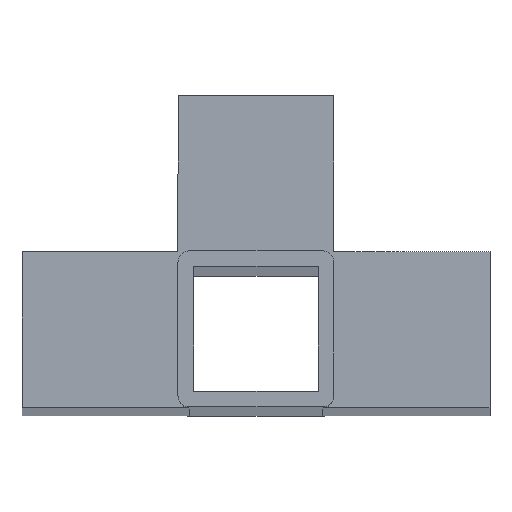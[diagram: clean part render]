
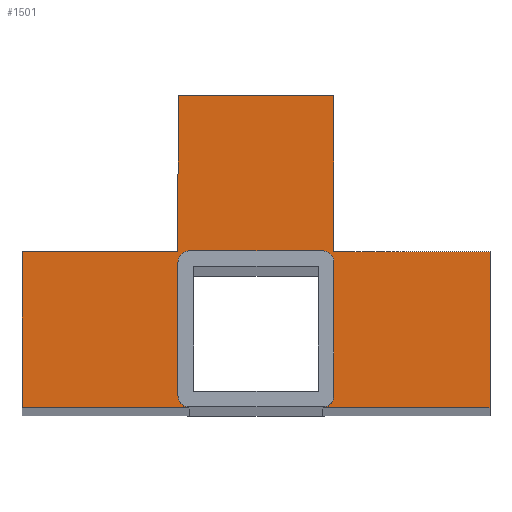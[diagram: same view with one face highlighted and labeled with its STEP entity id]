
A CAD part, top view. The second image highlights one B-rep face of the part: STEP entity #1501.
In plain terms, the highlighted planar face has unit normal (0, 0, 1).
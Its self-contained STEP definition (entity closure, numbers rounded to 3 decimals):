
#38 = DIRECTION ( 'NONE',  ( 0., 0., -1. ) ) ;
#41 = EDGE_CURVE ( 'NONE', #569, #1343, #944, .T. ) ;
#59 = VECTOR ( 'NONE', #917, 1000. ) ;
#63 = VERTEX_POINT ( 'NONE', #1124 ) ;
#64 = CARTESIAN_POINT ( 'NONE',  ( 20., 60., 600. ) ) ;
#82 = VERTEX_POINT ( 'NONE', #1514 ) ;
#88 = VECTOR ( 'NONE', #832, 1000. ) ;
#96 = CARTESIAN_POINT ( 'NONE',  ( 0., 60., 600. ) ) ;
#99 = VERTEX_POINT ( 'NONE', #1136 ) ;
#110 = CARTESIAN_POINT ( 'NONE',  ( -17., -20., 600. ) ) ;
#111 = LINE ( 'NONE', #965, #88 ) ;
#119 = VERTEX_POINT ( 'NONE', #1505 ) ;
#149 = VERTEX_POINT ( 'NONE', #743 ) ;
#169 = CARTESIAN_POINT ( 'NONE',  ( 17., 17., 600. ) ) ;
#199 = ORIENTED_EDGE ( 'NONE', *, *, #1150, .T. ) ;
#210 = EDGE_CURVE ( 'NONE', #947, #736, #1065, .T. ) ;
#221 = VERTEX_POINT ( 'NONE', #780 ) ;
#231 = EDGE_CURVE ( 'NONE', #736, #1009, #941, .T. ) ;
#257 = ORIENTED_EDGE ( 'NONE', *, *, #284, .F. ) ;
#262 = ORIENTED_EDGE ( 'NONE', *, *, #41, .F. ) ;
#272 = CARTESIAN_POINT ( 'NONE',  ( 0., -20., 600. ) ) ;
#284 = EDGE_CURVE ( 'NONE', #99, #650, #1524, .T. ) ;
#286 = DIRECTION ( 'NONE',  ( 0., -1., 0. ) ) ;
#289 = CARTESIAN_POINT ( 'NONE',  ( -60., -20., 600. ) ) ;
#292 = DIRECTION ( 'NONE',  ( 0., -1., 0. ) ) ;
#327 = VECTOR ( 'NONE', #1016, 1000. ) ;
#334 = CARTESIAN_POINT ( 'NONE',  ( -20., 60., 600. ) ) ;
#335 = AXIS2_PLACEMENT_3D ( 'NONE', #519, #1291, #1028 ) ;
#349 = ORIENTED_EDGE ( 'NONE', *, *, #971, .F. ) ;
#368 = ORIENTED_EDGE ( 'NONE', *, *, #1518, .T. ) ;
#372 = EDGE_CURVE ( 'NONE', #650, #82, #1442, .T. ) ;
#373 = DIRECTION ( 'NONE',  ( 1., 0., 0. ) ) ;
#379 = DIRECTION ( 'NONE',  ( 1., 0., 0. ) ) ;
#385 = EDGE_CURVE ( 'NONE', #1203, #99, #900, .T. ) ;
#389 = AXIS2_PLACEMENT_3D ( 'NONE', #1498, #867, #749 ) ;
#394 = ORIENTED_EDGE ( 'NONE', *, *, #1242, .F. ) ;
#396 = DIRECTION ( 'NONE',  ( 1., 0., 0. ) ) ;
#493 = VECTOR ( 'NONE', #1334, 1000. ) ;
#519 = CARTESIAN_POINT ( 'NONE',  ( -17., -17., 600. ) ) ;
#524 = DIRECTION ( 'NONE',  ( 1., 0., 0. ) ) ;
#532 = ORIENTED_EDGE ( 'NONE', *, *, #1137, .F. ) ;
#545 = EDGE_CURVE ( 'NONE', #1343, #63, #111, .T. ) ;
#563 = EDGE_CURVE ( 'NONE', #63, #1203, #1248, .T. ) ;
#569 = VERTEX_POINT ( 'NONE', #334 ) ;
#571 = CARTESIAN_POINT ( 'NONE',  ( 17., -20., 600. ) ) ;
#581 = VERTEX_POINT ( 'NONE', #1329 ) ;
#582 = LINE ( 'NONE', #1146, #670 ) ;
#594 = VECTOR ( 'NONE', #286, 1000. ) ;
#625 = FACE_OUTER_BOUND ( 'NONE', #883, .T. ) ;
#626 = EDGE_CURVE ( 'NONE', #1009, #1576, #1062, .T. ) ;
#643 = DIRECTION ( 'NONE',  ( 1., 0., 0. ) ) ;
#645 = CARTESIAN_POINT ( 'NONE',  ( 60., 20., 600. ) ) ;
#650 = VERTEX_POINT ( 'NONE', #571 ) ;
#655 = DIRECTION ( 'NONE',  ( -1., 0., 0. ) ) ;
#666 = LINE ( 'NONE', #1476, #327 ) ;
#667 = DIRECTION ( 'NONE',  ( 0., 0., 1. ) ) ;
#670 = VECTOR ( 'NONE', #379, 1000. ) ;
#672 = CARTESIAN_POINT ( 'NONE',  ( -20., 0., 600. ) ) ;
#697 = DIRECTION ( 'NONE',  ( 0., 1., 0. ) ) ;
#724 = AXIS2_PLACEMENT_3D ( 'NONE', #169, #38, #524 ) ;
#736 = VERTEX_POINT ( 'NONE', #110 ) ;
#743 = CARTESIAN_POINT ( 'NONE',  ( -20., 20., 600. ) ) ;
#749 = DIRECTION ( 'NONE',  ( 1., 0., 0. ) ) ;
#777 = CIRCLE ( 'NONE', #724, 3. ) ;
#780 = CARTESIAN_POINT ( 'NONE',  ( -17., 20., 600. ) ) ;
#789 = ORIENTED_EDGE ( 'NONE', *, *, #210, .F. ) ;
#807 = CARTESIAN_POINT ( 'NONE',  ( 60., 0., 600. ) ) ;
#827 = PLANE ( 'NONE',  #1394 ) ;
#832 = DIRECTION ( 'NONE',  ( 0., -1., 0. ) ) ;
#863 = AXIS2_PLACEMENT_3D ( 'NONE', #1036, #667, #396 ) ;
#866 = VERTEX_POINT ( 'NONE', #1500 ) ;
#867 = DIRECTION ( 'NONE',  ( 0., 0., 1. ) ) ;
#876 = CARTESIAN_POINT ( 'NONE',  ( -20., -17., 600. ) ) ;
#880 = VECTOR ( 'NONE', #1039, 1000. ) ;
#881 = DIRECTION ( 'NONE',  ( 1., 0., 0. ) ) ;
#883 = EDGE_LOOP ( 'NONE', ( #349, #368, #199, #1142, #1237, #257, #910, #952, #1330, #262, #394, #1508, #1546, #1006, #789, #532 ) ) ;
#900 = LINE ( 'NONE', #807, #1556 ) ;
#910 = ORIENTED_EDGE ( 'NONE', *, *, #385, .F. ) ;
#917 = DIRECTION ( 'NONE',  ( -1., 0., 0. ) ) ;
#941 = LINE ( 'NONE', #1516, #59 ) ;
#944 = LINE ( 'NONE', #96, #1082 ) ;
#947 = VERTEX_POINT ( 'NONE', #876 ) ;
#952 = ORIENTED_EDGE ( 'NONE', *, *, #563, .F. ) ;
#965 = CARTESIAN_POINT ( 'NONE',  ( 20., 0., 600. ) ) ;
#971 = EDGE_CURVE ( 'NONE', #221, #581, #1467, .T. ) ;
#978 = EDGE_CURVE ( 'NONE', #119, #82, #666, .T. ) ;
#1006 = ORIENTED_EDGE ( 'NONE', *, *, #231, .F. ) ;
#1009 = VERTEX_POINT ( 'NONE', #289 ) ;
#1016 = DIRECTION ( 'NONE',  ( 0., -1., 0. ) ) ;
#1028 = DIRECTION ( 'NONE',  ( 1., 0., 0. ) ) ;
#1036 = CARTESIAN_POINT ( 'NONE',  ( 17., -17., 600. ) ) ;
#1038 = CARTESIAN_POINT ( 'NONE',  ( 0., 20., 600. ) ) ;
#1039 = DIRECTION ( 'NONE',  ( 0., 1., 0. ) ) ;
#1062 = LINE ( 'NONE', #1324, #1337 ) ;
#1065 = CIRCLE ( 'NONE', #335, 3. ) ;
#1082 = VECTOR ( 'NONE', #881, 1000. ) ;
#1091 = CARTESIAN_POINT ( 'NONE',  ( 0., 20., 600. ) ) ;
#1096 = VECTOR ( 'NONE', #655, 1000. ) ;
#1124 = CARTESIAN_POINT ( 'NONE',  ( 20., 20., 600. ) ) ;
#1132 = CARTESIAN_POINT ( 'NONE',  ( 0., 0., 600. ) ) ;
#1136 = CARTESIAN_POINT ( 'NONE',  ( 60., -20., 600. ) ) ;
#1137 = EDGE_CURVE ( 'NONE', #581, #947, #1276, .T. ) ;
#1142 = ORIENTED_EDGE ( 'NONE', *, *, #978, .T. ) ;
#1146 = CARTESIAN_POINT ( 'NONE',  ( 0., 20., 600. ) ) ;
#1150 = EDGE_CURVE ( 'NONE', #866, #119, #777, .T. ) ;
#1168 = VECTOR ( 'NONE', #643, 1000. ) ;
#1197 = LINE ( 'NONE', #1303, #880 ) ;
#1203 = VERTEX_POINT ( 'NONE', #645 ) ;
#1237 = ORIENTED_EDGE ( 'NONE', *, *, #372, .F. ) ;
#1242 = EDGE_CURVE ( 'NONE', #149, #569, #1197, .T. ) ;
#1248 = LINE ( 'NONE', #1091, #493 ) ;
#1267 = DIRECTION ( 'NONE',  ( 0., 0., 1. ) ) ;
#1276 = LINE ( 'NONE', #672, #594 ) ;
#1291 = DIRECTION ( 'NONE',  ( 0., 0., 1. ) ) ;
#1303 = CARTESIAN_POINT ( 'NONE',  ( -20., 0., 600. ) ) ;
#1324 = CARTESIAN_POINT ( 'NONE',  ( -60., 0., 600. ) ) ;
#1329 = CARTESIAN_POINT ( 'NONE',  ( -20., 17., 600. ) ) ;
#1330 = ORIENTED_EDGE ( 'NONE', *, *, #545, .F. ) ;
#1334 = DIRECTION ( 'NONE',  ( 1., 0., 0. ) ) ;
#1337 = VECTOR ( 'NONE', #697, 1000. ) ;
#1343 = VERTEX_POINT ( 'NONE', #64 ) ;
#1394 = AXIS2_PLACEMENT_3D ( 'NONE', #1132, #1267, #373 ) ;
#1410 = LINE ( 'NONE', #1038, #1168 ) ;
#1442 = CIRCLE ( 'NONE', #863, 3. ) ;
#1467 = CIRCLE ( 'NONE', #389, 3. ) ;
#1476 = CARTESIAN_POINT ( 'NONE',  ( 20., 0., 600. ) ) ;
#1498 = CARTESIAN_POINT ( 'NONE',  ( -17., 17., 600. ) ) ;
#1500 = CARTESIAN_POINT ( 'NONE',  ( 17., 20., 600. ) ) ;
#1501 = ADVANCED_FACE ( 'NONE', ( #625 ), #827, .T. ) ;
#1505 = CARTESIAN_POINT ( 'NONE',  ( 20., 17., 600. ) ) ;
#1508 = ORIENTED_EDGE ( 'NONE', *, *, #1550, .F. ) ;
#1514 = CARTESIAN_POINT ( 'NONE',  ( 20., -17., 600. ) ) ;
#1515 = CARTESIAN_POINT ( 'NONE',  ( -60., 20., 600. ) ) ;
#1516 = CARTESIAN_POINT ( 'NONE',  ( 0., -20., 600. ) ) ;
#1518 = EDGE_CURVE ( 'NONE', #221, #866, #582, .T. ) ;
#1524 = LINE ( 'NONE', #272, #1096 ) ;
#1546 = ORIENTED_EDGE ( 'NONE', *, *, #626, .F. ) ;
#1550 = EDGE_CURVE ( 'NONE', #1576, #149, #1410, .T. ) ;
#1556 = VECTOR ( 'NONE', #292, 1000. ) ;
#1576 = VERTEX_POINT ( 'NONE', #1515 ) ;
